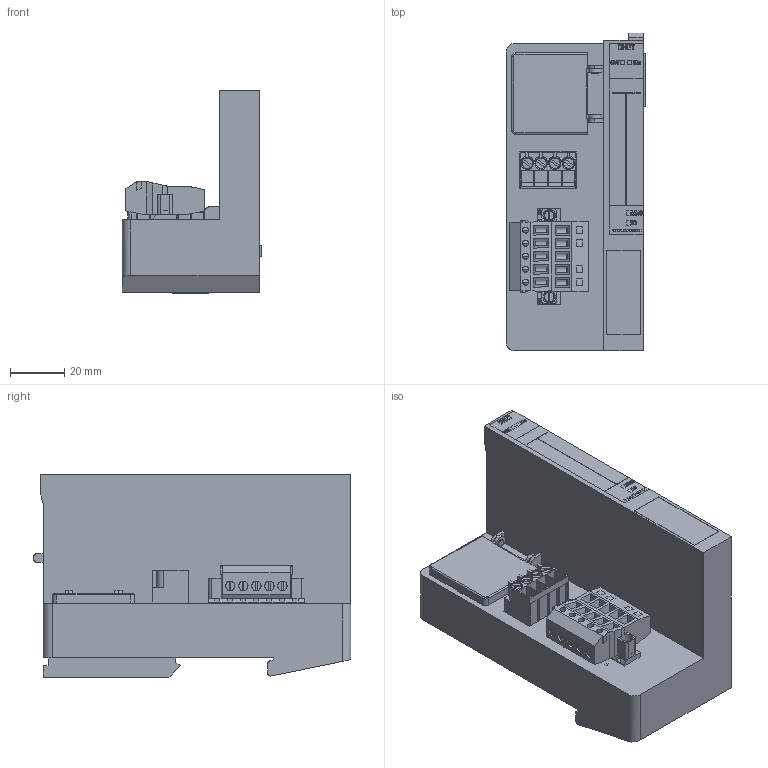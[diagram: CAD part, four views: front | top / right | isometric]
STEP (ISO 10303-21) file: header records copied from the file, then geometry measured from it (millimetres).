
FILE_DESCRIPTION (( 'STEP AP203' ), '1' );
FILE_NAME ('BL20-GWBR-DNET-ass.step', '2014-10-27T16:48:01', ( 'Turck User' ), ( '' ), 'SwSTEP 2.0', 'SolidWorks 2014', '' );
FILE_SCHEMA (( 'CONFIG_CONTROL_DESIGN' ));
Length unit declared in the file: millimetre
Products named in the file (1): BL20-GWBR-DNET-ass
Bounding box: 51.5 x 116.95 x 74.52 mm (x, y, z)
Volume: 209554.3 mm3; surface area: 46223.9 mm2
Topology: 1 solids, 2 shells, 2178 faces, 5700 edges, 3755 vertices
Faces by surface type: plane 1435, bspline 419, cylinder 223, cone 64, torus 37
Entity records: 69386 total; most frequent: CARTESIAN_POINT 18201, ORIENTED_EDGE 11400, DIRECTION 8851, EDGE_CURVE 5700, LINE 4181, VECTOR 4181, VERTEX_POINT 3755, EDGE_LOOP 2429
